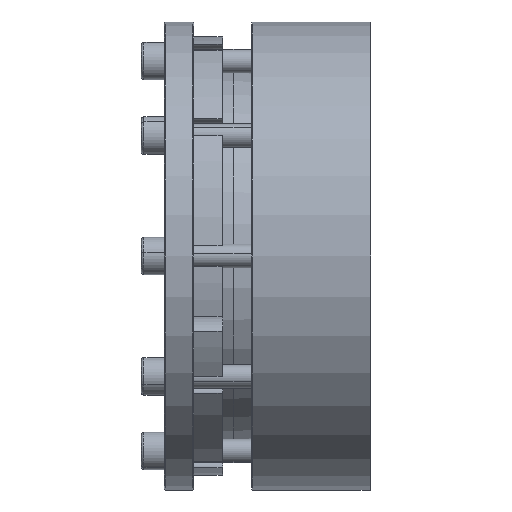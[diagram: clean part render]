
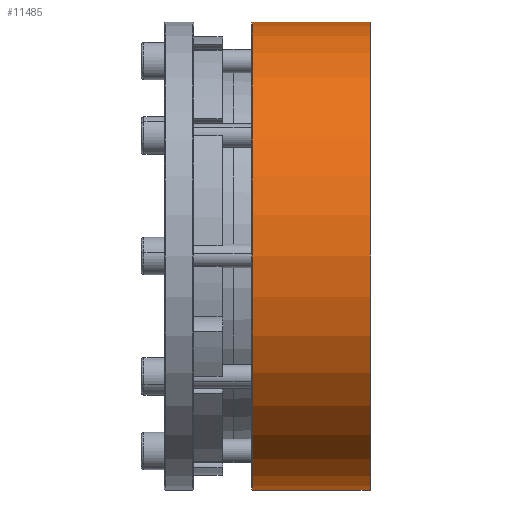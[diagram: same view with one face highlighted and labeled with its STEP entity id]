
A CAD part, front view. The second image highlights one B-rep face of the part: STEP entity #11485.
In plain terms, the highlighted cylindrical face has radius 99.91 mm (diameter 199.82 mm), a partial arc.
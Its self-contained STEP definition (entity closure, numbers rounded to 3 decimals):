
#213 = EDGE_CURVE ( 'NONE', #898, #4712, #3200, .T. ) ;
#298 = ORIENTED_EDGE ( 'NONE', *, *, #213, .T. ) ;
#340 = DIRECTION ( 'NONE',  ( -1., 0., 0. ) ) ;
#898 = VERTEX_POINT ( 'NONE', #2883 ) ;
#1307 = ORIENTED_EDGE ( 'NONE', *, *, #8405, .T. ) ;
#1643 = CIRCLE ( 'NONE', #6138, 99.91 ) ;
#2075 = DIRECTION ( 'NONE',  ( 0., 0., 1. ) ) ;
#2883 = CARTESIAN_POINT ( 'NONE',  ( -17.981, 26.04, 99.91 ) ) ;
#3061 = CIRCLE ( 'NONE', #8113, 99.91 ) ;
#3200 = LINE ( 'NONE', #6774, #5885 ) ;
#4205 = LINE ( 'NONE', #11322, #8657 ) ;
#4500 = DIRECTION ( 'NONE',  ( 0., 0., 1. ) ) ;
#4590 = EDGE_LOOP ( 'NONE', ( #8249, #1307, #298, #8381 ) ) ;
#4677 = DIRECTION ( 'NONE',  ( -1., 0., 0. ) ) ;
#4712 = VERTEX_POINT ( 'NONE', #5804 ) ;
#5016 = AXIS2_PLACEMENT_3D ( 'NONE', #9011, #4677, #4500 ) ;
#5804 = CARTESIAN_POINT ( 'NONE',  ( -68.181, 26.04, 99.91 ) ) ;
#5851 = CARTESIAN_POINT ( 'NONE',  ( -68.181, 26.04, -99.91 ) ) ;
#5885 = VECTOR ( 'NONE', #9472, 1000. ) ;
#5964 = CARTESIAN_POINT ( 'NONE',  ( -17.981, 26.04, -99.91 ) ) ;
#6138 = AXIS2_PLACEMENT_3D ( 'NONE', #10440, #8681, #7046 ) ;
#6321 = VERTEX_POINT ( 'NONE', #5851 ) ;
#6774 = CARTESIAN_POINT ( 'NONE',  ( -68.581, 26.04, 99.91 ) ) ;
#7046 = DIRECTION ( 'NONE',  ( 0., 0., -1. ) ) ;
#7705 = EDGE_CURVE ( 'NONE', #8045, #6321, #4205, .T. ) ;
#8045 = VERTEX_POINT ( 'NONE', #5964 ) ;
#8113 = AXIS2_PLACEMENT_3D ( 'NONE', #8119, #340, #2075 ) ;
#8119 = CARTESIAN_POINT ( 'NONE',  ( -17.981, 26.04, 0. ) ) ;
#8249 = ORIENTED_EDGE ( 'NONE', *, *, #7705, .F. ) ;
#8381 = ORIENTED_EDGE ( 'NONE', *, *, #11131, .T. ) ;
#8405 = EDGE_CURVE ( 'NONE', #8045, #898, #3061, .T. ) ;
#8657 = VECTOR ( 'NONE', #11378, 1000. ) ;
#8681 = DIRECTION ( 'NONE',  ( 1., 0., 0. ) ) ;
#8955 = CYLINDRICAL_SURFACE ( 'NONE', #5016, 99.91 ) ;
#9011 = CARTESIAN_POINT ( 'NONE',  ( -68.581, 26.04, 0. ) ) ;
#9472 = DIRECTION ( 'NONE',  ( -1., 0., 0. ) ) ;
#10025 = FACE_OUTER_BOUND ( 'NONE', #4590, .T. ) ;
#10440 = CARTESIAN_POINT ( 'NONE',  ( -68.181, 26.04, 0. ) ) ;
#11131 = EDGE_CURVE ( 'NONE', #4712, #6321, #1643, .T. ) ;
#11322 = CARTESIAN_POINT ( 'NONE',  ( -68.581, 26.04, -99.91 ) ) ;
#11378 = DIRECTION ( 'NONE',  ( -1., 0., 0. ) ) ;
#11485 = ADVANCED_FACE ( 'NONE', ( #10025 ), #8955, .T. ) ;
